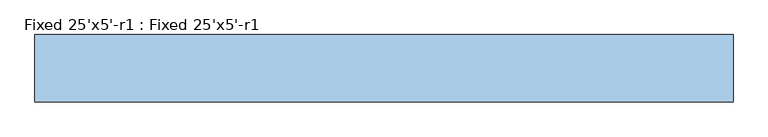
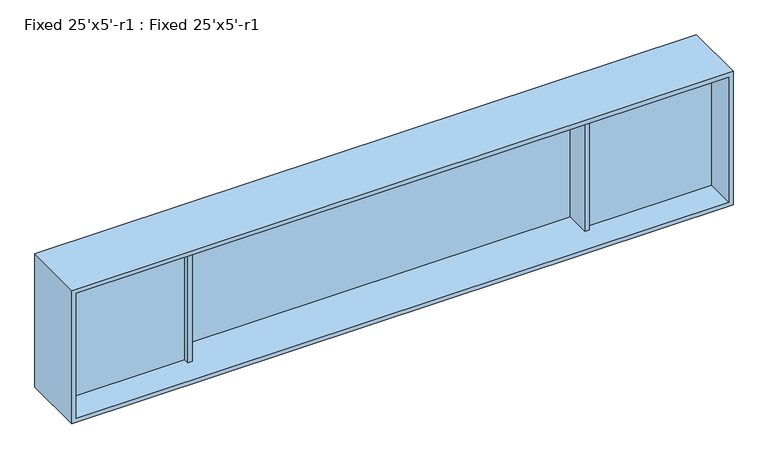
"""IFC4 building model written with IfcOpenShell, lengths in millimetres: window geometry, Fixed 25'x5'-r1 : Fixed 25'x5'-r1."""

from ifc_helpers import new_model, si_unit, frame, origin, place, context, project, spatial, polyline, outline, extrude, source, transform, mapped, element, save


def fixed_25_x5_r1_fixed_25_x5_r1_81c53d64(model_context):
    return source(origin(), model_context, "Body", "SweptSolid", [
        extrude(outline(polyline([(-2514.6, 304.8), (2006.6, 304.8), (2006.6, 292.1), (-2514.6, 292.1), (-2514.6, 304.8)])), frame((0.0, 0.0, 914.4), z_axis=(0.0, 0.0, 1.0), x_axis=(1.0, 0.0, 0.0)), (0.0, 0.0, 1.0), 1524.0),
        extrude(outline(polyline([(2057.4, 76.2), (3505.2, 76.2), (3505.2, 63.5), (2057.4, 63.5), (2057.4, 76.2)])), frame((0.0, 0.0, 914.4), z_axis=(0.0, 0.0, 1.0), x_axis=(1.0, 0.0, 0.0)), (0.0, 0.0, 1.0), 1524.0),
        extrude(outline(polyline([(-4013.2, 76.2), (-2565.4, 76.2), (-2565.4, 63.5), (-4013.2, 63.5), (-4013.2, 76.2)])), frame((0.0, 0.0, 914.4), z_axis=(0.0, 0.0, 1.0), x_axis=(1.0, 0.0, 0.0)), (0.0, 0.0, 1.0), 1524.0),
        extrude(outline(polyline([(2006.6, 304.8), (2057.4, 304.8), (2057.4, 0.0), (2006.6, 0.0), (2006.6, 304.8)])), frame((0.0, 0.0, 914.4), z_axis=(0.0, 0.0, 1.0), x_axis=(1.0, 0.0, 0.0)), (0.0, 0.0, 1.0), 1524.0),
        extrude(outline(polyline([(-2565.4, 304.8), (-2514.6, 304.8), (-2514.6, 0.0), (-2565.4, 0.0), (-2565.4, 304.8)])), frame((0.0, 0.0, 914.4), z_axis=(0.0, 0.0, 1.0), x_axis=(1.0, 0.0, 0.0)), (0.0, 0.0, 1.0), 1524.0),
        extrude(outline(polyline([(2489.2, -4064.0), (863.6, -4064.0), (863.6, 3556.0), (2489.2, 3556.0), (2489.2, -4064.0)]), holes=[polyline([(2438.4, -4013.2), (2438.4, 3505.2), (914.4, 3505.2), (914.4, -4013.2), (2438.4, -4013.2)])]), frame((0.0, -277.8125, 0.0), z_axis=(0.0, 1.0, 0.0), x_axis=(0.0, 0.0, 1.0)), (0.0, 0.0, 1.0), 735.0125),
    ])


if __name__ == "__main__":
    model = new_model("IFC4")
    model_context = context("Model", 3, world=origin())
    ifc_project = project(units=[si_unit("LENGTHUNIT", "METRE", prefix="MILLI")], contexts=[model_context])
    site = spatial("IfcSite", under=ifc_project)
    building = spatial("IfcBuilding", under=site)
    placement = place(None, origin())
    fixed_25_x5_r1_fixed_25_x5_r1_shape = fixed_25_x5_r1_fixed_25_x5_r1_81c53d64(model_context)
    element("IfcWindow", 1, ObjectType="Fixed 25'x5'-r1 : Fixed 25'x5'-r1", at=placement, inside=building, context=model_context, shape_type="MappedRepresentation", body=[
        mapped(fixed_25_x5_r1_fixed_25_x5_r1_shape, transform((0.0, 0.0, 0.0), x_axis=(1.0, 0.0, 0.0), y_axis=(0.0, 1.0, 0.0), z_axis=(0.0, 0.0, 1.0))),
    ])
    save(model, "model.ifc")
